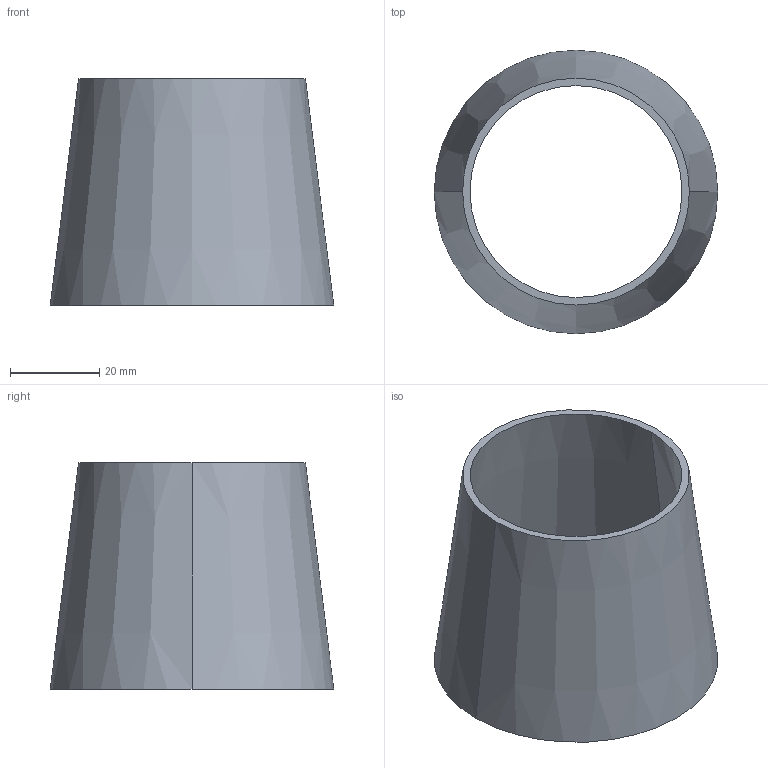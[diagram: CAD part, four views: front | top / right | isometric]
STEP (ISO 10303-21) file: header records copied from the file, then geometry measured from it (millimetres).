
FILE_DESCRIPTION (( 'STEP AP214' ), '1' );
FILE_NAME ('E31WW2.5X2.0.STEP', '2025-07-01T12:49:35', ( '' ), ( '' ), 'SwSTEP 2.0', 'SolidWorks 2021', '' );
FILE_SCHEMA (( 'AUTOMOTIVE_DESIGN' ));
Length unit declared in the file: inch
Products named in the file (1): E31WW2.5X2.0
Bounding box: 63.5 x 63.5 x 50.8 mm (x, y, z)
Volume: 14733.7 mm3; surface area: 18428.3 mm2
Topology: 1 solids, 1 shells, 6 faces, 12 edges, 8 vertices
Faces by surface type: cone 4, plane 2
Entity records: 208 total; most frequent: DIRECTION 34, CARTESIAN_POINT 27, ORIENTED_EDGE 24, AXIS2_PLACEMENT_3D 15, EDGE_CURVE 12, CIRCLE 8, EDGE_LOOP 8, VERTEX_POINT 8
